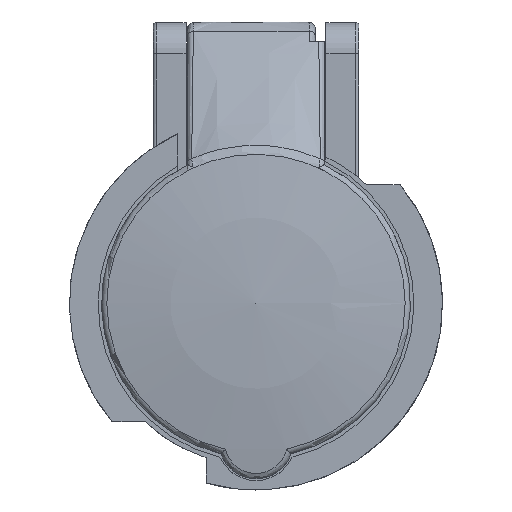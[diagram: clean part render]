
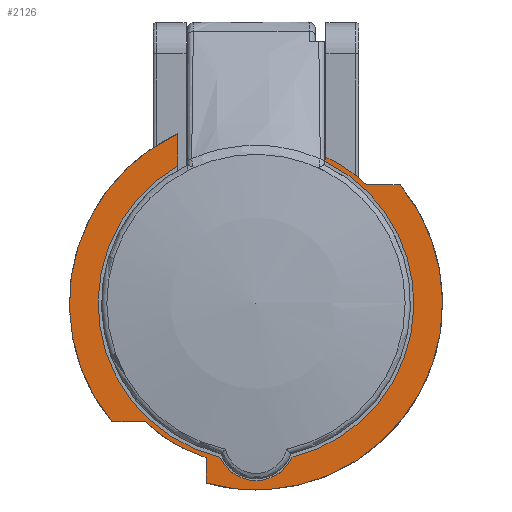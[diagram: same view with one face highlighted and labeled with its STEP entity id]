
A CAD part, top view. The second image highlights one B-rep face of the part: STEP entity #2126.
In plain terms, the highlighted planar face has unit normal (0, 0, 1).
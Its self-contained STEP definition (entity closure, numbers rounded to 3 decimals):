
#2050 = VERTEX_POINT('',#2051);
#2051 = CARTESIAN_POINT('',(-12.5,21.996,41.));
#2057 = EDGE_CURVE('',#2058,#2050,#2060,.T.);
#2058 = VERTEX_POINT('',#2059);
#2059 = CARTESIAN_POINT('',(-5.768,-24.634,41.));
#2060 = CIRCLE('',#2061,25.3);
#2061 = AXIS2_PLACEMENT_3D('',#2062,#2063,#2064);
#2062 = CARTESIAN_POINT('',(0.,0.,41.));
#2063 = DIRECTION('',(0.,0.,-1.));
#2064 = DIRECTION('',(-0.228,-0.974,-0.));
#2080 = EDGE_CURVE('',#2081,#2083,#2085,.T.);
#2081 = VERTEX_POINT('',#2082);
#2082 = CARTESIAN_POINT('',(11.2,22.686,41.));
#2083 = VERTEX_POINT('',#2084);
#2084 = CARTESIAN_POINT('',(5.768,-24.634,41.));
#2085 = CIRCLE('',#2086,25.3);
#2086 = AXIS2_PLACEMENT_3D('',#2087,#2088,#2089);
#2087 = CARTESIAN_POINT('',(0.,0.,41.));
#2088 = DIRECTION('',(0.,0.,-1.));
#2089 = DIRECTION('',(0.443,0.897,0.));
#2115 = EDGE_CURVE('',#2058,#2083,#2116,.T.);
#2116 = CIRCLE('',#2117,6.3);
#2117 = AXIS2_PLACEMENT_3D('',#2118,#2119,#2120);
#2118 = CARTESIAN_POINT('',(0.,-22.1,41.));
#2119 = DIRECTION('',(0.,0.,1.));
#2120 = DIRECTION('',(-0.916,-0.402,0.));
#2126 = ADVANCED_FACE('',(#2127),#2214,.F.);
#2127 = FACE_BOUND('',#2128,.T.);
#2128 = EDGE_LOOP('',(#2129,#2130,#2138,#2147,#2155,#2164,#2172,#2181,
    #2189,#2198,#2206,#2212,#2213));
#2129 = ORIENTED_EDGE('',*,*,#2057,.T.);
#2130 = ORIENTED_EDGE('',*,*,#2131,.T.);
#2131 = EDGE_CURVE('',#2050,#2132,#2134,.T.);
#2132 = VERTEX_POINT('',#2133);
#2133 = CARTESIAN_POINT('',(-12.5,27.162,41.));
#2134 = LINE('',#2135,#2136);
#2135 = CARTESIAN_POINT('',(-12.5,21.996,41.));
#2136 = VECTOR('',#2137,1.);
#2137 = DIRECTION('',(0.,1.,0.));
#2138 = ORIENTED_EDGE('',*,*,#2139,.T.);
#2139 = EDGE_CURVE('',#2132,#2140,#2142,.T.);
#2140 = VERTEX_POINT('',#2141);
#2141 = CARTESIAN_POINT('',(-23.087,-19.,41.));
#2142 = CIRCLE('',#2143,29.9);
#2143 = AXIS2_PLACEMENT_3D('',#2144,#2145,#2146);
#2144 = CARTESIAN_POINT('',(0.,0.,41.));
#2145 = DIRECTION('',(0.,0.,1.));
#2146 = DIRECTION('',(-0.418,0.908,0.));
#2147 = ORIENTED_EDGE('',*,*,#2148,.T.);
#2148 = EDGE_CURVE('',#2140,#2149,#2151,.T.);
#2149 = VERTEX_POINT('',#2150);
#2150 = CARTESIAN_POINT('',(-17.748,-19.,41.));
#2151 = LINE('',#2152,#2153);
#2152 = CARTESIAN_POINT('',(-23.087,-19.,41.));
#2153 = VECTOR('',#2154,1.);
#2154 = DIRECTION('',(1.,0.,0.));
#2155 = ORIENTED_EDGE('',*,*,#2156,.T.);
#2156 = EDGE_CURVE('',#2149,#2157,#2159,.T.);
#2157 = VERTEX_POINT('',#2158);
#2158 = CARTESIAN_POINT('',(-8.,-24.739,41.));
#2159 = CIRCLE('',#2160,26.);
#2160 = AXIS2_PLACEMENT_3D('',#2161,#2162,#2163);
#2161 = CARTESIAN_POINT('',(0.,0.,41.));
#2162 = DIRECTION('',(0.,0.,1.));
#2163 = DIRECTION('',(-0.683,-0.731,0.));
#2164 = ORIENTED_EDGE('',*,*,#2165,.F.);
#2165 = EDGE_CURVE('',#2166,#2157,#2168,.T.);
#2166 = VERTEX_POINT('',#2167);
#2167 = CARTESIAN_POINT('',(-8.,-28.81,41.));
#2168 = LINE('',#2169,#2170);
#2169 = CARTESIAN_POINT('',(-8.,-28.81,41.));
#2170 = VECTOR('',#2171,1.);
#2171 = DIRECTION('',(0.,1.,0.));
#2172 = ORIENTED_EDGE('',*,*,#2173,.T.);
#2173 = EDGE_CURVE('',#2166,#2174,#2176,.T.);
#2174 = VERTEX_POINT('',#2175);
#2175 = CARTESIAN_POINT('',(23.087,19.,41.));
#2176 = CIRCLE('',#2177,29.9);
#2177 = AXIS2_PLACEMENT_3D('',#2178,#2179,#2180);
#2178 = CARTESIAN_POINT('',(0.,0.,41.));
#2179 = DIRECTION('',(0.,0.,1.));
#2180 = DIRECTION('',(-0.268,-0.964,0.));
#2181 = ORIENTED_EDGE('',*,*,#2182,.T.);
#2182 = EDGE_CURVE('',#2174,#2183,#2185,.T.);
#2183 = VERTEX_POINT('',#2184);
#2184 = CARTESIAN_POINT('',(17.748,19.,41.));
#2185 = LINE('',#2186,#2187);
#2186 = CARTESIAN_POINT('',(23.087,19.,41.));
#2187 = VECTOR('',#2188,1.);
#2188 = DIRECTION('',(-1.,0.,0.));
#2189 = ORIENTED_EDGE('',*,*,#2190,.T.);
#2190 = EDGE_CURVE('',#2183,#2191,#2193,.T.);
#2191 = VERTEX_POINT('',#2192);
#2192 = CARTESIAN_POINT('',(11.2,23.464,41.));
#2193 = CIRCLE('',#2194,26.);
#2194 = AXIS2_PLACEMENT_3D('',#2195,#2196,#2197);
#2195 = CARTESIAN_POINT('',(0.,0.,41.));
#2196 = DIRECTION('',(0.,0.,1.));
#2197 = DIRECTION('',(0.683,0.731,-0.));
#2198 = ORIENTED_EDGE('',*,*,#2199,.T.);
#2199 = EDGE_CURVE('',#2191,#2200,#2202,.T.);
#2200 = VERTEX_POINT('',#2201);
#2201 = CARTESIAN_POINT('',(11.2,23.,41.));
#2202 = LINE('',#2203,#2204);
#2203 = CARTESIAN_POINT('',(11.2,23.464,41.));
#2204 = VECTOR('',#2205,1.);
#2205 = DIRECTION('',(0.,-1.,0.));
#2206 = ORIENTED_EDGE('',*,*,#2207,.T.);
#2207 = EDGE_CURVE('',#2200,#2081,#2208,.T.);
#2208 = LINE('',#2209,#2210);
#2209 = CARTESIAN_POINT('',(11.2,23.,41.));
#2210 = VECTOR('',#2211,1.);
#2211 = DIRECTION('',(0.,-1.,0.));
#2212 = ORIENTED_EDGE('',*,*,#2080,.T.);
#2213 = ORIENTED_EDGE('',*,*,#2115,.F.);
#2214 = PLANE('',#2215);
#2215 = AXIS2_PLACEMENT_3D('',#2216,#2217,#2218);
#2216 = CARTESIAN_POINT('',(0.,0.,41.));
#2217 = DIRECTION('',(0.,0.,-1.));
#2218 = DIRECTION('',(0.,1.,0.));
